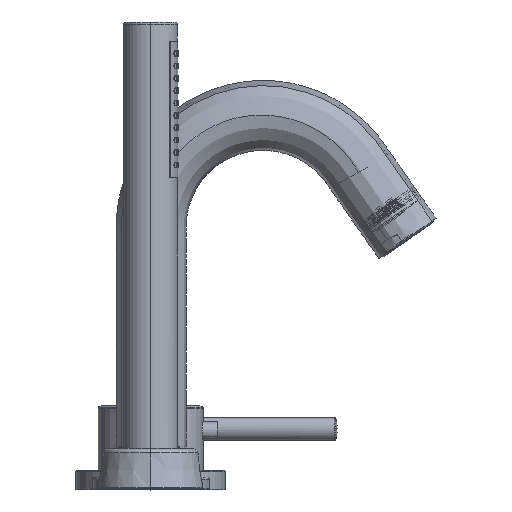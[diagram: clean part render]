
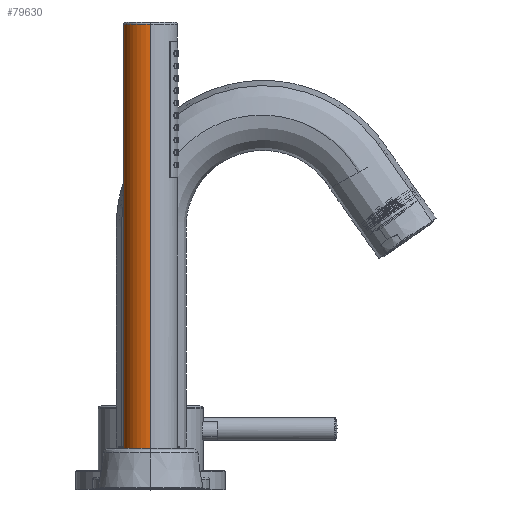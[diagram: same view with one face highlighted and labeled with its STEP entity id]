
A CAD part, top view. The second image highlights one B-rep face of the part: STEP entity #79630.
In plain terms, the highlighted cylindrical face has radius 11.5 mm (diameter 23 mm), a partial arc.
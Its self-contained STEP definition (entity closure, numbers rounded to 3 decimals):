
#2456 = ORIENTED_EDGE ( 'NONE', *, *, #266762, .T. ) ;
#18216 = AXIS2_PLACEMENT_3D ( 'NONE', #212577, #233002, #175490 ) ;
#24234 = LINE ( 'NONE', #179611, #110602 ) ;
#26628 = CARTESIAN_POINT ( 'NONE',  ( -450.276, 232.7, 140. ) ) ;
#69059 = CARTESIAN_POINT ( 'NONE',  ( -450.276, 186.7, 128.5 ) ) ;
#79630 = ADVANCED_FACE ( 'NONE', ( #113060 ), #246218, .T. ) ;
#79894 = CARTESIAN_POINT ( 'NONE',  ( -450.276, 49.2, 151.5 ) ) ;
#80833 = AXIS2_PLACEMENT_3D ( 'NONE', #135053, #117461, #249057 ) ;
#94146 = VERTEX_POINT ( 'NONE', #79894 ) ;
#110602 = VECTOR ( 'NONE', #132729, 1000. ) ;
#113060 = FACE_OUTER_BOUND ( 'NONE', #114100, .T. ) ;
#114100 = EDGE_LOOP ( 'NONE', ( #218018, #2456, #267005, #134696 ) ) ;
#117461 = DIRECTION ( 'NONE',  ( 0., 1., 0. ) ) ;
#132729 = DIRECTION ( 'NONE',  ( 0., 1., 0. ) ) ;
#134696 = ORIENTED_EDGE ( 'NONE', *, *, #136681, .T. ) ;
#135053 = CARTESIAN_POINT ( 'NONE',  ( -450.276, 186.7, 140. ) ) ;
#136681 = EDGE_CURVE ( 'NONE', #182262, #202969, #271577, .T. ) ;
#145465 = AXIS2_PLACEMENT_3D ( 'NONE', #26628, #153164, #272622 ) ;
#150297 = EDGE_CURVE ( 'NONE', #197081, #202969, #152663, .T. ) ;
#152663 = LINE ( 'NONE', #69059, #174565 ) ;
#153164 = DIRECTION ( 'NONE',  ( 0., -1., 0. ) ) ;
#153983 = CIRCLE ( 'NONE', #18216, 11.5 ) ;
#158480 = DIRECTION ( 'NONE',  ( 0., 1., 0. ) ) ;
#174565 = VECTOR ( 'NONE', #158480, 1000. ) ;
#175490 = DIRECTION ( 'NONE',  ( 0., 0., 1. ) ) ;
#179611 = CARTESIAN_POINT ( 'NONE',  ( -450.276, 186.7, 151.5 ) ) ;
#182262 = VERTEX_POINT ( 'NONE', #198656 ) ;
#184133 = CARTESIAN_POINT ( 'NONE',  ( -450.276, 232.7, 128.5 ) ) ;
#197081 = VERTEX_POINT ( 'NONE', #217786 ) ;
#198656 = CARTESIAN_POINT ( 'NONE',  ( -450.276, 232.7, 151.5 ) ) ;
#202969 = VERTEX_POINT ( 'NONE', #184133 ) ;
#212577 = CARTESIAN_POINT ( 'NONE',  ( -450.276, 49.2, 140. ) ) ;
#217786 = CARTESIAN_POINT ( 'NONE',  ( -450.276, 49.2, 128.5 ) ) ;
#218018 = ORIENTED_EDGE ( 'NONE', *, *, #150297, .F. ) ;
#218815 = EDGE_CURVE ( 'NONE', #94146, #182262, #24234, .T. ) ;
#233002 = DIRECTION ( 'NONE',  ( 0., 1., 0. ) ) ;
#246218 = CYLINDRICAL_SURFACE ( 'NONE', #80833, 11.5 ) ;
#249057 = DIRECTION ( 'NONE',  ( 0., 0., 1. ) ) ;
#266762 = EDGE_CURVE ( 'NONE', #197081, #94146, #153983, .T. ) ;
#267005 = ORIENTED_EDGE ( 'NONE', *, *, #218815, .T. ) ;
#271577 = CIRCLE ( 'NONE', #145465, 11.5 ) ;
#272622 = DIRECTION ( 'NONE',  ( 0., 0., 1. ) ) ;
